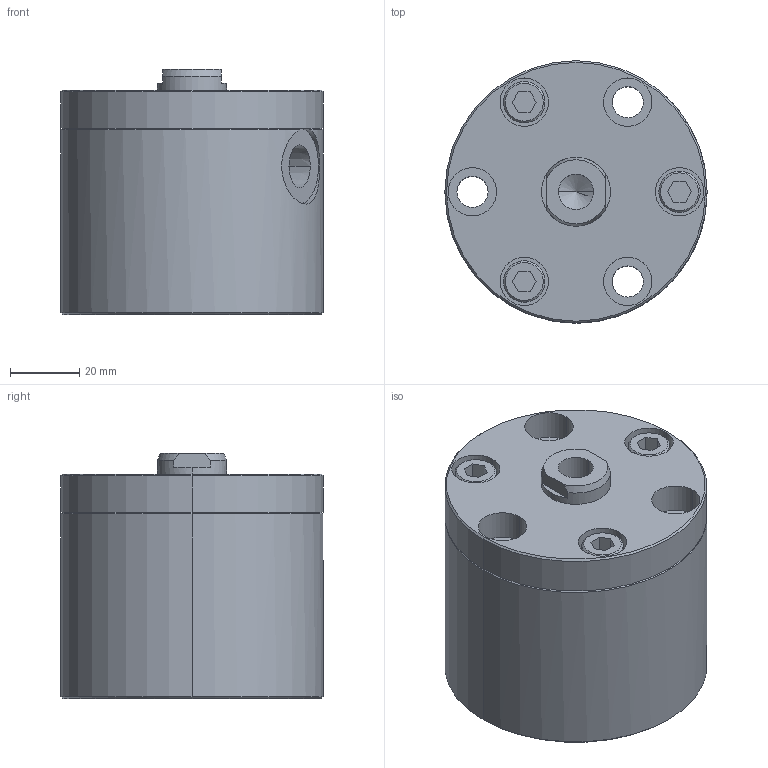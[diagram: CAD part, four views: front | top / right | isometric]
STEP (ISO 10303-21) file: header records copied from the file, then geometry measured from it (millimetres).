
FILE_DESCRIPTION (( 'STEP AP203' ), '1' );
FILE_NAME ('4360 422.STEP', '2016-01-28T12:20:06', ( '' ), ( '' ), 'SwSTEP 2.0', 'SolidWorks 2015', '' );
FILE_SCHEMA (( 'CONFIG_CONTROL_DESIGN' ));
Length unit declared in the file: millimetre
Products named in the file (1): 4360 422
Bounding box: 76 x 76 x 71 mm (x, y, z)
Volume: 270232.9 mm3; surface area: 35666.2 mm2
Topology: 1 solids, 1 shells, 116 faces, 263 edges, 166 vertices
Faces by surface type: cylinder 46, plane 45, cone 25
Entity records: 3497 total; most frequent: CARTESIAN_POINT 741, DIRECTION 596, ORIENTED_EDGE 514, EDGE_CURVE 257, AXIS2_PLACEMENT_3D 233, VERTEX_POINT 166, EDGE_LOOP 145, VECTOR 130
